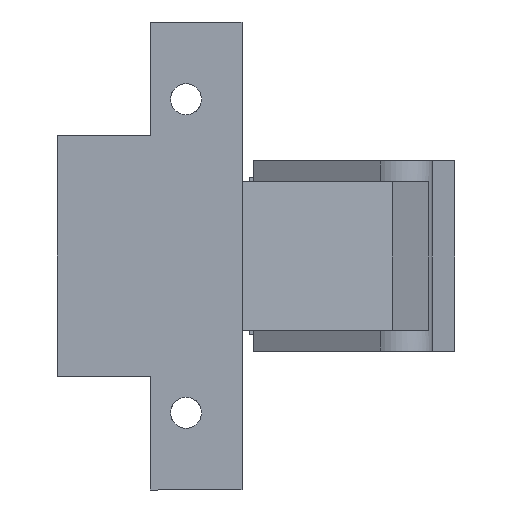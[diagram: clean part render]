
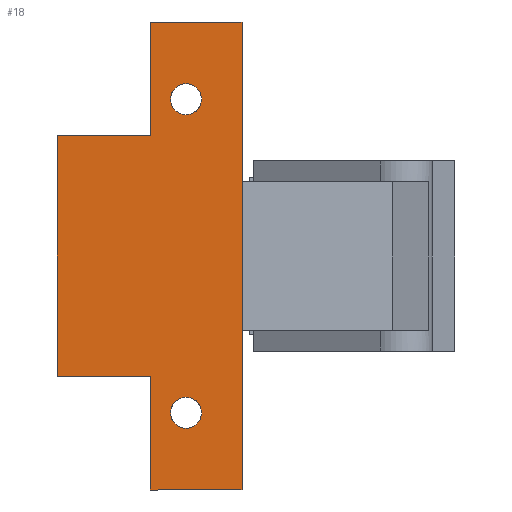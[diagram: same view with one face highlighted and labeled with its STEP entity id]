
A CAD part, front view. The second image highlights one B-rep face of the part: STEP entity #18.
In plain terms, the highlighted planar face has unit normal (0, -1, 0).
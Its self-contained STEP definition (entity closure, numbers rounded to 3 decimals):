
#18 = ADVANCED_FACE ( 'NONE', ( #1702, #1689, #1706 ), #731, .F. ) ;
#216 = LINE ( 'NONE', #1111, #217 ) ;
#217 = VECTOR ( 'NONE', #1112, 1000. ) ;
#236 = LINE ( 'NONE', #1021, #237 ) ;
#237 = VECTOR ( 'NONE', #1020, 1000. ) ;
#345 = DIRECTION ( 'NONE',  ( 0., 0., 1. ) ) ;
#347 = DIRECTION ( 'NONE',  ( 0., -1., 0. ) ) ;
#356 = CARTESIAN_POINT ( 'NONE',  ( -2., -11.7, -14. ) ) ;
#360 = DIRECTION ( 'NONE',  ( 0., 0., 1. ) ) ;
#361 = DIRECTION ( 'NONE',  ( 0., -1., 0. ) ) ;
#362 = CARTESIAN_POINT ( 'NONE',  ( -2., -11.7, 14. ) ) ;
#462 = VERTEX_POINT ( 'NONE', #713 ) ;
#470 = VERTEX_POINT ( 'NONE', #708 ) ;
#481 = VERTEX_POINT ( 'NONE', #707 ) ;
#483 = VERTEX_POINT ( 'NONE', #706 ) ;
#502 = VERTEX_POINT ( 'NONE', #699 ) ;
#526 = VERTEX_POINT ( 'NONE', #692 ) ;
#529 = VERTEX_POINT ( 'NONE', #691 ) ;
#531 = VERTEX_POINT ( 'NONE', #690 ) ;
#533 = VERTEX_POINT ( 'NONE', #689 ) ;
#541 = DIRECTION ( 'NONE',  ( 1., 0., 0. ) ) ;
#542 = CARTESIAN_POINT ( 'NONE',  ( 3., -11.7, -20.9 ) ) ;
#548 = DIRECTION ( 'NONE',  ( 0., 0., -1. ) ) ;
#550 = DIRECTION ( 'NONE',  ( 0., 0., 1. ) ) ;
#551 = DIRECTION ( 'NONE',  ( 0., -1., 0. ) ) ;
#553 = CARTESIAN_POINT ( 'NONE',  ( -2., -11.7, 14. ) ) ;
#554 = DIRECTION ( 'NONE',  ( 0., 0., 1. ) ) ;
#556 = DIRECTION ( 'NONE',  ( 0., -1., 0. ) ) ;
#557 = CARTESIAN_POINT ( 'NONE',  ( -13.5, -11.7, 10.75 ) ) ;
#558 = DIRECTION ( 'NONE',  ( 0., 0., -1. ) ) ;
#559 = CARTESIAN_POINT ( 'NONE',  ( 3., -11.7, 10.75 ) ) ;
#561 = DIRECTION ( 'NONE',  ( 0., 0., -1. ) ) ;
#562 = CARTESIAN_POINT ( 'NONE',  ( -5.18, -11.7, 20.9 ) ) ;
#567 = VERTEX_POINT ( 'NONE', #680 ) ;
#568 = CARTESIAN_POINT ( 'NONE',  ( -2., -11.7, -14. ) ) ;
#571 = DIRECTION ( 'NONE',  ( 0., 0., -1. ) ) ;
#574 = DIRECTION ( 'NONE',  ( 1., 0., 0. ) ) ;
#576 = CARTESIAN_POINT ( 'NONE',  ( 3., -11.7, 20.9 ) ) ;
#580 = CARTESIAN_POINT ( 'NONE',  ( -5.18, -11.7, 20.9 ) ) ;
#603 = VERTEX_POINT ( 'NONE', #667 ) ;
#622 = VERTEX_POINT ( 'NONE', #664 ) ;
#664 = CARTESIAN_POINT ( 'NONE',  ( -5.18, -11.7, -10.75 ) ) ;
#667 = CARTESIAN_POINT ( 'NONE',  ( -13.5, -11.7, -10.75 ) ) ;
#680 = CARTESIAN_POINT ( 'NONE',  ( -5.18, -11.7, 10.75 ) ) ;
#689 = CARTESIAN_POINT ( 'NONE',  ( -5.18, -11.7, 20.9 ) ) ;
#690 = CARTESIAN_POINT ( 'NONE',  ( 3., -11.7, -20.9 ) ) ;
#691 = CARTESIAN_POINT ( 'NONE',  ( 3., -11.7, 20.9 ) ) ;
#692 = CARTESIAN_POINT ( 'NONE',  ( -5.18, -11.7, -20.9 ) ) ;
#699 = CARTESIAN_POINT ( 'NONE',  ( -2., -11.7, 15.39 ) ) ;
#706 = CARTESIAN_POINT ( 'NONE',  ( -2., -11.7, -12.61 ) ) ;
#707 = CARTESIAN_POINT ( 'NONE',  ( -2., -11.7, -15.39 ) ) ;
#708 = CARTESIAN_POINT ( 'NONE',  ( -2., -11.7, 12.61 ) ) ;
#713 = CARTESIAN_POINT ( 'NONE',  ( -13.5, -11.7, 10.75 ) ) ;
#731 = PLANE ( 'NONE',  #1571 ) ;
#754 = DIRECTION ( 'NONE',  ( 0., 1., 0. ) ) ;
#755 = CARTESIAN_POINT ( 'NONE',  ( 3., -11.7, 10.75 ) ) ;
#762 = DIRECTION ( 'NONE',  ( -1., 0., 0. ) ) ;
#1020 = DIRECTION ( 'NONE',  ( -1., 0., 0. ) ) ;
#1021 = CARTESIAN_POINT ( 'NONE',  ( 3., -11.7, 10.75 ) ) ;
#1111 = CARTESIAN_POINT ( 'NONE',  ( 3., -11.7, -10.75 ) ) ;
#1112 = DIRECTION ( 'NONE',  ( -1., 0., 0. ) ) ;
#1227 = ORIENTED_EDGE ( 'NONE', *, *, #1467, .T. ) ;
#1228 = ORIENTED_EDGE ( 'NONE', *, *, #1458, .T. ) ;
#1229 = ORIENTED_EDGE ( 'NONE', *, *, #1809, .F. ) ;
#1230 = ORIENTED_EDGE ( 'NONE', *, *, #1464, .T. ) ;
#1231 = ORIENTED_EDGE ( 'NONE', *, *, #1820, .T. ) ;
#1232 = ORIENTED_EDGE ( 'NONE', *, *, #1460, .T. ) ;
#1233 = ORIENTED_EDGE ( 'NONE', *, *, #1457, .F. ) ;
#1234 = ORIENTED_EDGE ( 'NONE', *, *, #1461, .F. ) ;
#1235 = ORIENTED_EDGE ( 'NONE', *, *, #1525, .F. ) ;
#1236 = ORIENTED_EDGE ( 'NONE', *, *, #1463, .F. ) ;
#1237 = ORIENTED_EDGE ( 'NONE', *, *, #1529, .F. ) ;
#1238 = ORIENTED_EDGE ( 'NONE', *, *, #1462, .F. ) ;
#1457 = EDGE_CURVE ( 'NONE', #533, #529, #1847, .T. ) ;
#1458 = EDGE_CURVE ( 'NONE', #622, #526, #1840, .T. ) ;
#1460 = EDGE_CURVE ( 'NONE', #533, #567, #1853, .T. ) ;
#1461 = EDGE_CURVE ( 'NONE', #529, #531, #1855, .T. ) ;
#1462 = EDGE_CURVE ( 'NONE', #483, #481, #1858, .T. ) ;
#1463 = EDGE_CURVE ( 'NONE', #502, #470, #1860, .T. ) ;
#1464 = EDGE_CURVE ( 'NONE', #462, #603, #1859, .T. ) ;
#1467 = EDGE_CURVE ( 'NONE', #526, #531, #1865, .T. ) ;
#1525 = EDGE_CURVE ( 'NONE', #470, #502, #1963, .T. ) ;
#1529 = EDGE_CURVE ( 'NONE', #481, #483, #1969, .T. ) ;
#1571 = AXIS2_PLACEMENT_3D ( 'NONE', #755, #754, #762 ) ;
#1629 = EDGE_LOOP ( 'NONE', ( #1234, #1233, #1232, #1231, #1230, #1229, #1228, #1227 ) ) ;
#1630 = EDGE_LOOP ( 'NONE', ( #1236, #1235 ) ) ;
#1637 = EDGE_LOOP ( 'NONE', ( #1238, #1237 ) ) ;
#1689 = FACE_BOUND ( 'NONE', #1630, .T. ) ;
#1702 = FACE_BOUND ( 'NONE', #1637, .T. ) ;
#1706 = FACE_OUTER_BOUND ( 'NONE', #1629, .T. ) ;
#1809 = EDGE_CURVE ( 'NONE', #622, #603, #216, .T. ) ;
#1820 = EDGE_CURVE ( 'NONE', #567, #462, #236, .T. ) ;
#1840 = LINE ( 'NONE', #580, #1849 ) ;
#1847 = LINE ( 'NONE', #576, #1848 ) ;
#1848 = VECTOR ( 'NONE', #574, 1000. ) ;
#1849 = VECTOR ( 'NONE', #571, 1000. ) ;
#1853 = LINE ( 'NONE', #562, #1854 ) ;
#1854 = VECTOR ( 'NONE', #561, 1000. ) ;
#1855 = LINE ( 'NONE', #559, #1856 ) ;
#1856 = VECTOR ( 'NONE', #558, 1000. ) ;
#1857 = VECTOR ( 'NONE', #548, 1000. ) ;
#1858 = CIRCLE ( 'NONE', #1999, 1.39 ) ;
#1859 = LINE ( 'NONE', #557, #1857 ) ;
#1860 = CIRCLE ( 'NONE', #1997, 1.39 ) ;
#1865 = LINE ( 'NONE', #542, #1866 ) ;
#1866 = VECTOR ( 'NONE', #541, 1000. ) ;
#1963 = CIRCLE ( 'NONE', #2009, 1.39 ) ;
#1969 = CIRCLE ( 'NONE', #2011, 1.39 ) ;
#1997 = AXIS2_PLACEMENT_3D ( 'NONE', #553, #551, #550 ) ;
#1999 = AXIS2_PLACEMENT_3D ( 'NONE', #568, #556, #554 ) ;
#2009 = AXIS2_PLACEMENT_3D ( 'NONE', #362, #361, #360 ) ;
#2011 = AXIS2_PLACEMENT_3D ( 'NONE', #356, #347, #345 ) ;
